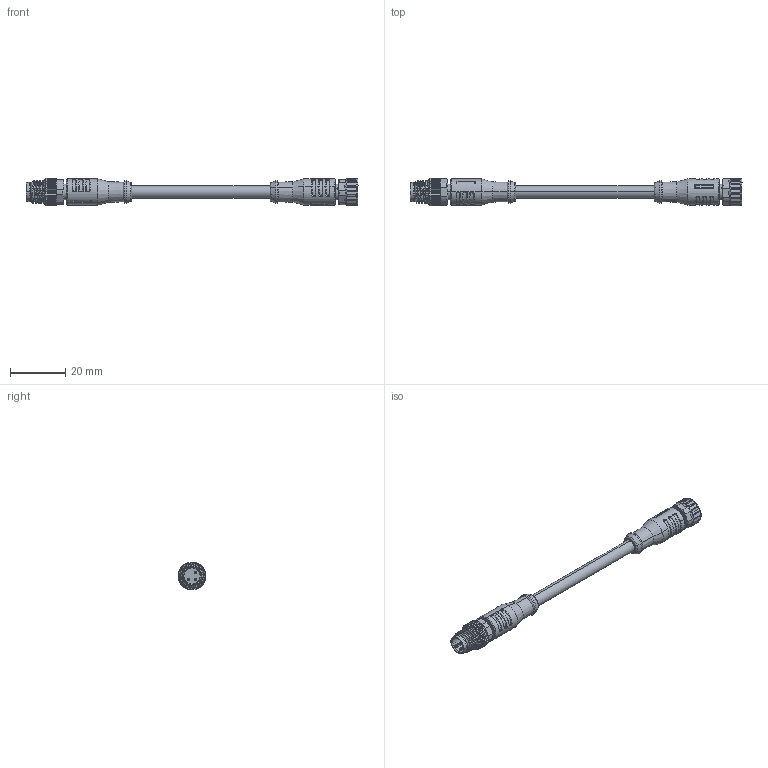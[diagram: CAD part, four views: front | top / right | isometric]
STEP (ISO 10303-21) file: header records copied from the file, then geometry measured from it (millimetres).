
FILE_DESCRIPTION (( 'STEP AP203' ), '1' );
FILE_NAME ('63D001-XXX.STEP', '2023-09-08T01:01:17', ( 'ADMIN' ), ( '' ), 'SwSTEP 2.0', 'SolidWorks 2016', '' );
FILE_SCHEMA (( 'CONFIG_CONTROL_DESIGN' ));
Length unit declared in the file: millimetre
Products named in the file (1): 63D001-XXX
Bounding box: 119.8 x 9.99 x 9.99 mm (x, y, z)
Volume: 4457.8 mm3; surface area: 4250 mm2
Topology: 1 solids, 1 shells, 1075 faces, 3020 edges, 1962 vertices
Faces by surface type: plane 429, cylinder 295, cone 171, bspline 159, torus 21
Entity records: 45085 total; most frequent: CARTESIAN_POINT 20912, ORIENTED_EDGE 6024, DIRECTION 3610, EDGE_CURVE 3012, VERTEX_POINT 1962, B_SPLINE_CURVE_WITH_KNOTS 1640, AXIS2_PLACEMENT_3D 1349, EDGE_LOOP 1110
